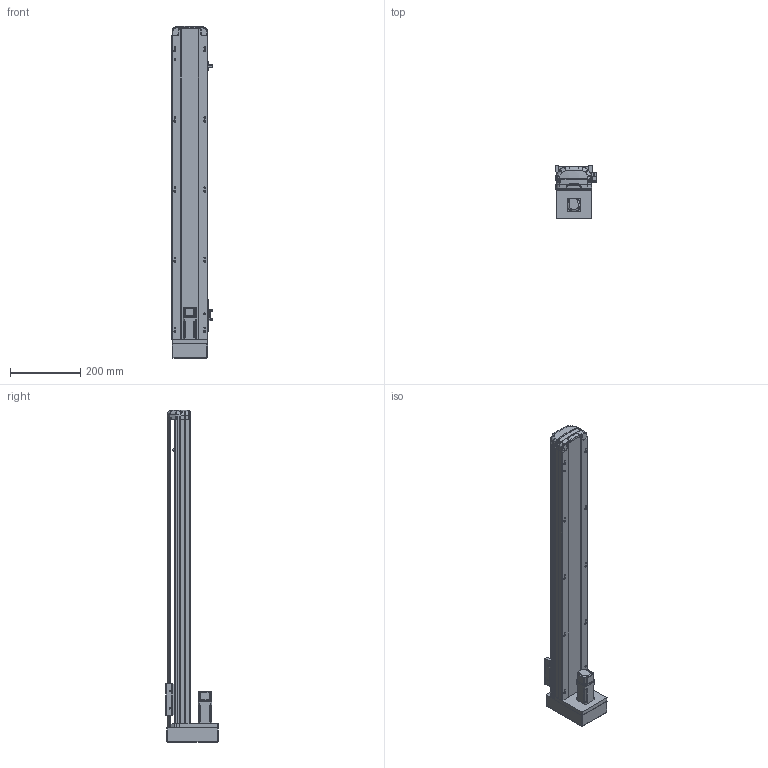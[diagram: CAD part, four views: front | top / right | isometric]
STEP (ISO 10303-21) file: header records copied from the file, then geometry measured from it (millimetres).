
FILE_DESCRIPTION (( 'STEP AP214' ), '1' );
FILE_NAME ('RTH10-XX-700-M-M10-C4.STEP', '2025-10-25T05:46:33', ( 'Microsoft' ), ( 'Microsoft' ), 'SwSTEP 2.0', 'SolidWorks 2018', '' );
FILE_SCHEMA (( 'AUTOMOTIVE_DESIGN' ));
Length unit declared in the file: millimetre
Products named in the file (10): N_RTH12-M-018-裔赽^RTH10-XX-100-M-M10-C4; N_RTH12-M-007P-奻裔^RTH10-XX-100-M-M10-C4; N_OMRON EE-SX672 传感器^RTH10-XX-100-M-M10-C4; RTH10-XX-700-M-M10-C4; N_RTH12-GY-001P^RTH10-XX-100-M-M10-C4; N_RTH12-M-011P-臏倰第菁釱^RTH10-XX-100-M-M10-C4; N_RTH13-L-012覜茼え俋离^RTH10-XX-100-M-M10-C4; N_RTH12-GY-004-賑釱^RTH10-XX-100-M-M10-C4; N_P10^RTH10-XX-100-M-M10-C4; N_RTH12-M-008-萇儂啣^RTH10-XX-100-M-M10-C4
Assembly tree (11 placements, depth 2):
  RTH10-XX-700-M-M10-C4
    N_RTH12-M-011P-臏倰第菁釱^RTH10-XX-100-M-M10-C4
    N_RTH13-L-012覜茼え俋离^RTH10-XX-100-M-M10-C4
    N_OMRON EE-SX672 传感器^RTH10-XX-100-M-M10-C4  x3
    N_P10^RTH10-XX-100-M-M10-C4
    N_RTH12-M-007P-奻裔^RTH10-XX-100-M-M10-C4
    N_RTH12-M-008-萇儂啣^RTH10-XX-100-M-M10-C4
    N_RTH12-M-018-裔赽^RTH10-XX-100-M-M10-C4
    N_RTH12-GY-004-賑釱^RTH10-XX-100-M-M10-C4
    N_RTH12-GY-001P^RTH10-XX-100-M-M10-C4
Bounding box: 116.5 x 149 x 947.14 mm (x, y, z)
Volume: 4310620.7 mm3; surface area: 647958.2 mm2
Topology: 10 solids, 12 shells, 1933 faces, 5395 edges, 3539 vertices
Faces by surface type: plane 955, bspline 472, cylinder 471, cone 29, sphere 4, torus 2
Entity records: 58187 total; most frequent: CARTESIAN_POINT 23167, ORIENTED_EDGE 7862, DIRECTION 6033, EDGE_CURVE 3937, VERTEX_POINT 2583, LINE 2071, VECTOR 2071, AXIS2_PLACEMENT_3D 1981
